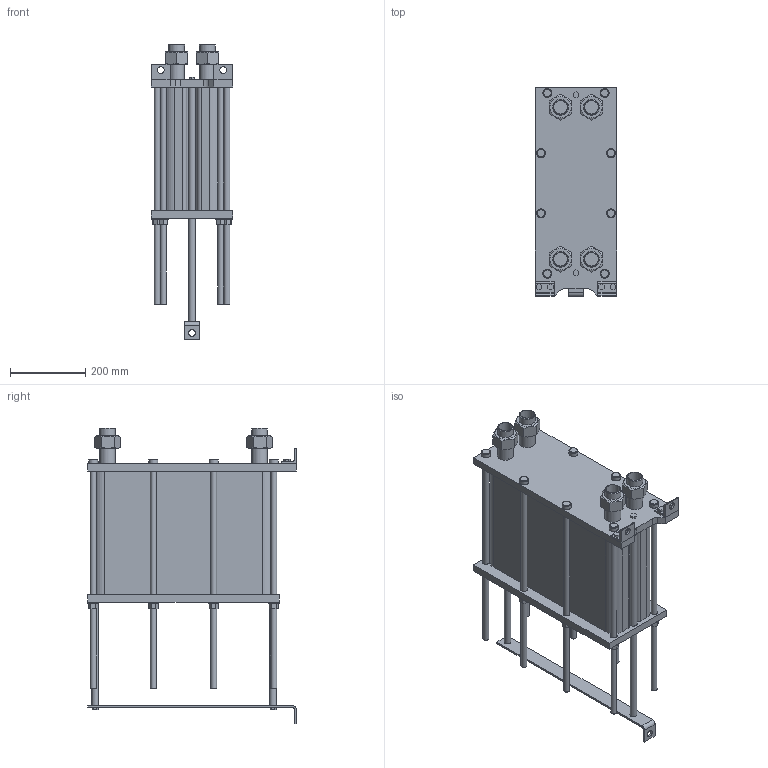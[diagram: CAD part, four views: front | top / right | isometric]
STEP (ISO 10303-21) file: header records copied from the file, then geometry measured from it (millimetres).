
FILE_DESCRIPTION(/* description */ (''),/* implementation_level */ '2;1');
FILE_NAME(/* name */ 'C:\Users\zhuro\Desktop\ENCO\TO\ЭН-004\ЭН-0,5-004-106-1.stp',/* time_stamp */ '2022-06-06T10:53:02+03:00',/* author */ ('zhuro'),/* organization */ (''),/* preprocessor_version */ 'ST-DEVELOPER v18.1',/* originating_system */ 'Autodesk Inventor 2022',/* authorisation */ '');
FILE_SCHEMA (('AUTOMOTIVE_DESIGN { 1 0 10303 214 3 1 1 }'));
Length unit declared in the file: millimetre
Products named in the file (1): ЭН-0,5-004-106-1
Bounding box: 216 x 555 x 785.8 mm (x, y, z)
Volume: 30419340 mm3; surface area: 1670145.9 mm2
Topology: 40 solids, 40 shells, 403 faces, 865 edges, 574 vertices
Faces by surface type: plane 272, cylinder 103, cone 28
Full cylindrical faces by diameter (mm): 10 x4, 16 x16, 18 x29, 20 x2, 24 x8, 28 x8, 36.3 x5, 42.3 x9
Entity records: 11137 total; most frequent: CARTESIAN_POINT 1939, DIRECTION 1879, ORIENTED_EDGE 1730, EDGE_CURVE 865, AXIS2_PLACEMENT_3D 658, VERTEX_POINT 574, LINE 563, VECTOR 563
